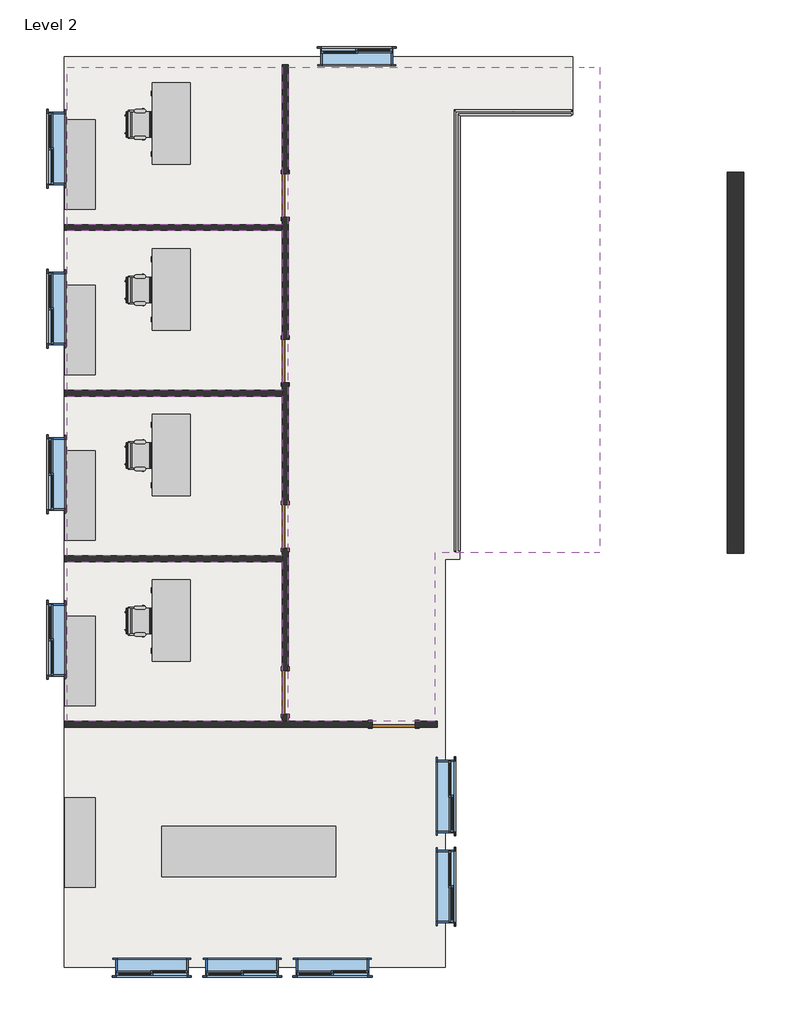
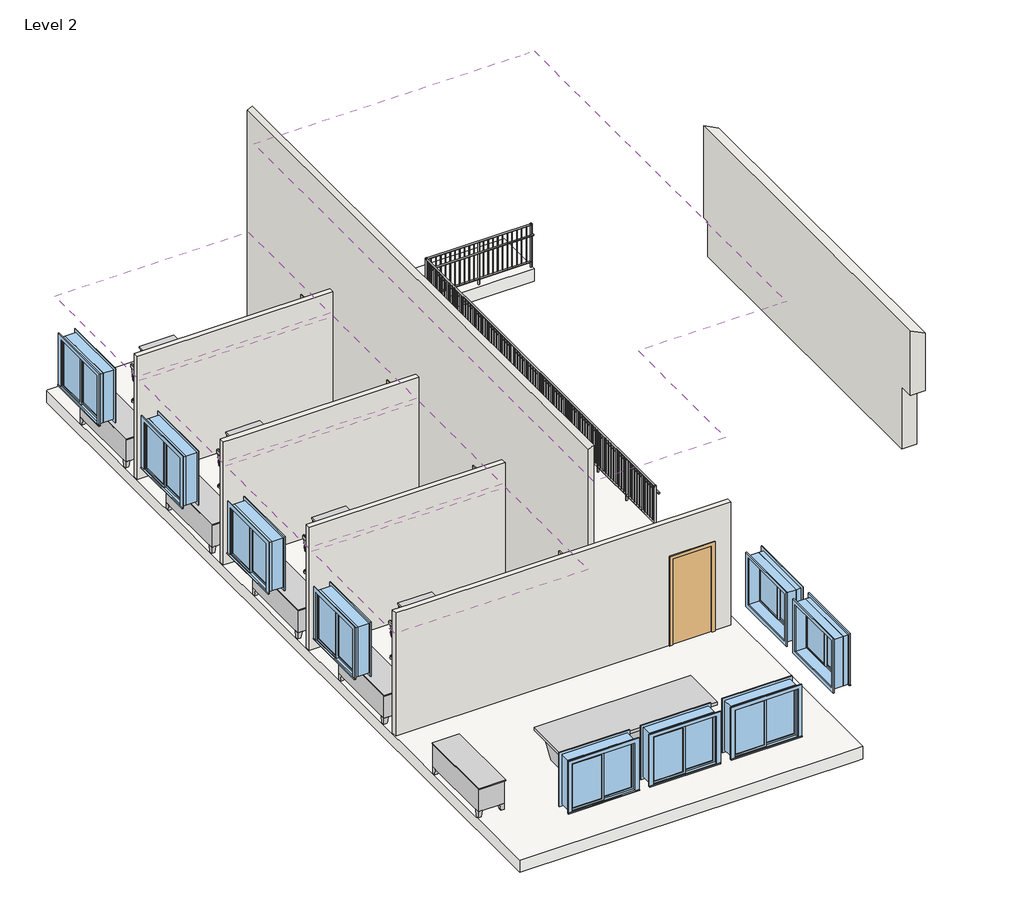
# One storey, incomplete: 14 furniture elements, 10 windows, 6 walls, 5 coverings, 5 doors, 1 railing, 1 slab.
"""IFC4 building model written with IfcOpenShell, lengths in millimetres."""

from ifc_helpers import new_model, si_unit, frame, origin, place, context, project, spatial, polyline, outline, extrude, faceted_brep, transform, mapped, element, save
from components import door_eb9f8b14, chair_task_arms_chair_task_arms_8395c10b, conference_table_complete_42_x_144_00e9c4b6, furniture_5a5a5c8e, furniture_9d33da18, ldc_handrail_pipe_vertical_balusters_79d0837e, ldc_handrail_pipe_vertical_balusters_2524e2be, window_8313e728

model = new_model("IFC4")

# Units and contexts
model_context = context("Model", 3, world=origin())
ifc_project = project(units=[si_unit("LENGTHUNIT", "METRE", prefix="MILLI")], contexts=[model_context])

# Site, building, storey
site = spatial("IfcSite", under=ifc_project)
building = spatial("IfcBuilding", under=site)
storey = spatial("IfcBuildingStorey", under=building, Name="Level 2", Elevation=3060.0)

# Coverings
placement = place(None, origin())
element("IfcCovering", 1, ObjectType="2' x 4' ACT System", at=placement, inside=storey, context=model_context, shape_type="SweptSolid", body=[
    extrude(outline(polyline([(-9011.7016552, 7211.1980424), (-13532.9016552, 7211.1980424), (-13532.9016552, 10517.9605424), (-9011.7016552, 10517.9605424), (-9011.7016552, 7211.1980424)])), frame((0.0, 0.0, 5498.4), z_axis=(0.0, 0.0, 1.0), x_axis=(1.0, 0.0, 0.0)), (0.0, 0.0, 1.0), 57.15),
])
element("IfcCovering", 2, ObjectType="2' x 4' ACT System", at=placement, inside=storey, context=model_context, shape_type="SweptSolid", body=[
    extrude(outline(polyline([(-9011.7016552, 3729.8105424), (-13532.9016552, 3729.8105424), (-13532.9016552, 7087.3730424), (-9011.7016552, 7087.3730424), (-9011.7016552, 3729.8105424)])), frame((0.0, 0.0, 5498.4), z_axis=(0.0, 0.0, 1.0), x_axis=(1.0, 0.0, 0.0)), (0.0, 0.0, 1.0), 57.15),
])
element("IfcCovering", 3, ObjectType="2' x 4' ACT System", at=placement, inside=storey, context=model_context, shape_type="SweptSolid", body=[
    extrude(outline(polyline([(-9011.7016552, 248.4230424), (-13532.9016552, 248.4230424), (-13532.9016552, 3605.9855424), (-9011.7016552, 3605.9855424), (-9011.7016552, 248.4230424)])), frame((0.0, 0.0, 5498.4), z_axis=(0.0, 0.0, 1.0), x_axis=(1.0, 0.0, 0.0)), (0.0, 0.0, 1.0), 57.15),
])
element("IfcCovering", 4, ObjectType="2' x 4' ACT System", at=placement, inside=storey, context=model_context, shape_type="SweptSolid", body=[
    extrude(outline(polyline([(-9011.7016552, -3232.9644576), (-13532.9016552, -3232.9644576), (-13532.9016552, 124.5980424), (-9011.7016552, 124.5980424), (-9011.7016552, -3232.9644576)])), frame((0.0, 0.0, 5498.4), z_axis=(0.0, 0.0, 1.0), x_axis=(1.0, 0.0, 0.0)), (0.0, 0.0, 1.0), 57.15),
])
element("IfcCovering", 5, ObjectType="5/8\" GWB on Mtl. Stud", at=placement, inside=storey, context=model_context, shape_type="Brep", body=[
    faceted_brep([(-2339.5447142, 10517.9605424, 7739.95), (-2772.9516552, 10517.9605424, 7739.95), (-8887.8766552, 10517.9605424, 7739.95), (-8887.8766552, -3232.9644576, 7739.95), (-5804.9516552, -3232.9644576, 7739.95), (-5804.9516552, 307.1605424, 7739.95), (-2772.9516552, 307.1605424, 7739.95), (-2339.5447142, 307.1605424, 7739.95), (-2339.5447142, 10517.9605424, 7632.0), (-2339.5447142, 307.1605424, 7632.0), (-2557.0516552, 307.1605424, 7632.0), (-5804.9516552, 307.1605424, 7632.0), (-5804.9516552, -3232.9644576, 7632.0), (-8887.8766552, -3232.9644576, 7632.0), (-8887.8766552, 10517.9605424, 7632.0), (-2557.0516552, 10517.9605424, 7632.0)], [[[0, 1, 2, 3, 4, 5, 6, 7]], [[8, 9, 10, 11, 12, 13, 14, 15]], [[2, 1, 0, 8, 15, 14]], [[3, 2, 14, 13]], [[4, 3, 13, 12]], [[5, 4, 12, 11]], [[7, 6, 5, 11, 10, 9]], [[0, 7, 9, 8]]]),
])

# Doors
door_shape = door_eb9f8b14(model_context)
element("IfcDoor", 6, ObjectType="Single-Flush : 36\" x 84\"", at=placement, inside=storey, context=model_context, shape_type="MappedRepresentation", body=[
    mapped(door_shape, transform((-6668.5516552, -3294.8769576, 3060.0), x_axis=(1.0, 0.0, 0.0), y_axis=(0.0, 1.0, 0.0), z_axis=(0.0, 0.0, 1.0))),
])
element("IfcDoor", 7, ObjectType="Single-Flush : 36\" x 84\"", at=placement, inside=storey, context=model_context, shape_type="MappedRepresentation", body=[
    mapped(door_shape, transform((-8949.7891552, -2623.3644576, 3060.0), x_axis=(0.0, -1.0, 0.0), y_axis=(1.0, 0.0, 0.0), z_axis=(0.0, 0.0, 1.0))),
])
element("IfcDoor", 8, ObjectType="Single-Flush : 36\" x 84\"", at=placement, inside=storey, context=model_context, shape_type="MappedRepresentation", body=[
    mapped(door_shape, transform((-8949.7891552, 862.7855424, 3060.0), x_axis=(0.0, -1.0, 0.0), y_axis=(1.0, 0.0, 0.0), z_axis=(0.0, 0.0, 1.0))),
])
element("IfcDoor", 9, ObjectType="Single-Flush : 36\" x 84\"", at=placement, inside=storey, context=model_context, shape_type="MappedRepresentation", body=[
    mapped(door_shape, transform((-8949.7891552, 4339.4105424, 3060.0), x_axis=(0.0, -1.0, 0.0), y_axis=(1.0, 0.0, 0.0), z_axis=(0.0, 0.0, 1.0))),
])
element("IfcDoor", 10, ObjectType="Single-Flush : 36\" x 84\"", at=placement, inside=storey, context=model_context, shape_type="MappedRepresentation", body=[
    mapped(door_shape, transform((-8949.7891552, 7820.7980424, 3060.0), x_axis=(0.0, -1.0, 0.0), y_axis=(1.0, 0.0, 0.0), z_axis=(0.0, 0.0, 1.0))),
])

# Furniture
chair_task_arms_chair_task_arms_shape = chair_task_arms_chair_task_arms_8395c10b(model_context)
element("IfcFurniture", 11, ObjectType="Chair-Task Arms : Chair-Task Arms", at=placement, inside=storey, context=model_context, shape_type="MappedRepresentation", body=[
    mapped(chair_task_arms_chair_task_arms_shape, transform((-12048.1356286, -1267.3427772, 3060.0), x_axis=(0.0, 1.0, 0.0), y_axis=(-1.0, 0.0, 0.0), z_axis=(0.0, 0.0, 1.0))),
])
element("IfcFurniture", 12, ObjectType="Chair-Task Arms : Chair-Task Arms", at=placement, inside=storey, context=model_context, shape_type="MappedRepresentation", body=[
    mapped(chair_task_arms_chair_task_arms_shape, transform((-12048.1356286, 2214.0447228, 3060.0), x_axis=(0.0, 1.0, 0.0), y_axis=(-1.0, 0.0, 0.0), z_axis=(0.0, 0.0, 1.0))),
])
element("IfcFurniture", 13, ObjectType="Chair-Task Arms : Chair-Task Arms", at=placement, inside=storey, context=model_context, shape_type="MappedRepresentation", body=[
    mapped(chair_task_arms_chair_task_arms_shape, transform((-12048.1356286, 5695.4322228, 3060.0), x_axis=(0.0, 1.0, 0.0), y_axis=(-1.0, 0.0, 0.0), z_axis=(0.0, 0.0, 1.0))),
])
element("IfcFurniture", 14, ObjectType="Chair-Task Arms : Chair-Task Arms", at=placement, inside=storey, context=model_context, shape_type="MappedRepresentation", body=[
    mapped(chair_task_arms_chair_task_arms_shape, transform((-12048.1356286, 9176.8197228, 3060.0), x_axis=(0.0, 1.0, 0.0), y_axis=(-1.0, 0.0, 0.0), z_axis=(0.0, 0.0, 1.0))),
])
conference_table_complete_42_x_144_shape = conference_table_complete_42_x_144_00e9c4b6(model_context)
element("IfcFurniture", 15, ObjectType="Conference Table-Complete : 42 x 144", at=placement, inside=storey, context=model_context, shape_type="MappedRepresentation", body=[
    mapped(conference_table_complete_42_x_144_shape, transform((-9715.5836955, -5969.8356111, 3060.0), x_axis=(1.0, 0.0, 0.0), y_axis=(0.0, 1.0, 0.0), z_axis=(0.0, 0.0, 1.0))),
])
furniture_shape = furniture_5a5a5c8e(model_context)
element("IfcFurniture", 16, ObjectType="Credenza : 72\" x 24\"", at=placement, inside=storey, context=model_context, shape_type="MappedRepresentation", body=[
    mapped(furniture_shape, transform((-13274.3213273, -1908.6485326, 3060.0), x_axis=(0.0, -1.0, 0.0), y_axis=(1.0, 0.0, 0.0), z_axis=(0.0, 0.0, 1.0))),
])
element("IfcFurniture", 17, ObjectType="Credenza : 72\" x 24\"", at=placement, inside=storey, context=model_context, shape_type="MappedRepresentation", body=[
    mapped(furniture_shape, transform((-13274.3213273, -5718.6485326, 3060.0), x_axis=(0.0, -1.0, 0.0), y_axis=(1.0, 0.0, 0.0), z_axis=(0.0, 0.0, 1.0))),
])
element("IfcFurniture", 18, ObjectType="Credenza : 72\" x 24\"", at=placement, inside=storey, context=model_context, shape_type="MappedRepresentation", body=[
    mapped(furniture_shape, transform((-13274.3213273, 1572.7389674, 3060.0), x_axis=(0.0, -1.0, 0.0), y_axis=(1.0, 0.0, 0.0), z_axis=(0.0, 0.0, 1.0))),
])
element("IfcFurniture", 19, ObjectType="Credenza : 72\" x 24\"", at=placement, inside=storey, context=model_context, shape_type="MappedRepresentation", body=[
    mapped(furniture_shape, transform((-13274.3213273, 5054.1264674, 3060.0), x_axis=(0.0, -1.0, 0.0), y_axis=(1.0, 0.0, 0.0), z_axis=(0.0, 0.0, 1.0))),
])
element("IfcFurniture", 20, ObjectType="Credenza : 72\" x 24\"", at=placement, inside=storey, context=model_context, shape_type="MappedRepresentation", body=[
    mapped(furniture_shape, transform((-13274.3213273, 8535.5139674, 3060.0), x_axis=(0.0, -1.0, 0.0), y_axis=(1.0, 0.0, 0.0), z_axis=(0.0, 0.0, 1.0))),
])
furniture_2_shape = furniture_9d33da18(model_context)
element("IfcFurniture", 21, ObjectType="Desk1 : 66\" x 30\"", at=placement, inside=storey, context=model_context, shape_type="MappedRepresentation", body=[
    mapped(furniture_2_shape, transform((-10962.389727, -275.4519576, 3060.0), x_axis=(0.0, -1.0, 0.0), y_axis=(1.0, 0.0, 0.0), z_axis=(0.0, 0.0, 1.0))),
])
element("IfcFurniture", 22, ObjectType="Desk1 : 66\" x 30\"", at=placement, inside=storey, context=model_context, shape_type="MappedRepresentation", body=[
    mapped(furniture_2_shape, transform((-10962.389727, 3205.9355424, 3060.0), x_axis=(0.0, -1.0, 0.0), y_axis=(1.0, 0.0, 0.0), z_axis=(0.0, 0.0, 1.0))),
])
element("IfcFurniture", 23, ObjectType="Desk1 : 66\" x 30\"", at=placement, inside=storey, context=model_context, shape_type="MappedRepresentation", body=[
    mapped(furniture_2_shape, transform((-10962.389727, 6687.3230424, 3060.0), x_axis=(0.0, -1.0, 0.0), y_axis=(1.0, 0.0, 0.0), z_axis=(0.0, 0.0, 1.0))),
])
element("IfcFurniture", 24, ObjectType="Desk1 : 66\" x 30\"", at=placement, inside=storey, context=model_context, shape_type="MappedRepresentation", body=[
    mapped(furniture_2_shape, transform((-10962.389727, 10168.7105424, 3060.0), x_axis=(0.0, -1.0, 0.0), y_axis=(1.0, 0.0, 0.0), z_axis=(0.0, 0.0, 1.0))),
])

# Railing
ldc_handrail_pipe_vertical_balusters_shape = ldc_handrail_pipe_vertical_balusters_79d0837e(model_context)
ldc_handrail_pipe_vertical_balusters_2_shape = ldc_handrail_pipe_vertical_balusters_2524e2be(model_context)
element("IfcRailing", 25, ObjectType="LDC - Handrail - Pipe - Vertical Balusters", at=placement, inside=storey, context=model_context, shape_type="MappedRepresentation", body=[
    mapped(ldc_handrail_pipe_vertical_balusters_shape, transform((0.0, 0.0, 0.0), x_axis=(1.0, 0.0, 0.0), y_axis=(0.0, 1.0, 0.0), z_axis=(0.0, 0.0, 1.0))),
    mapped(ldc_handrail_pipe_vertical_balusters_2_shape, transform((0.0, 0.0, 0.0), x_axis=(1.0, 0.0, 0.0), y_axis=(0.0, 1.0, 0.0), z_axis=(0.0, 0.0, 1.0))),
])

# Slab
element("IfcSlab", 26, ObjectType="Generic - 12\"", at=placement, inside=storey, context=model_context, shape_type="Brep", body=[
    faceted_brep([(-13596.4016552, 10733.8605424, 2755.2), (-13583.7016552, 10733.8605424, 2755.2), (-5093.7516552, 10733.8605424, 2755.2), (-2909.3516552, 10733.8605424, 2755.2), (-2909.3516552, 9522.777236, 2755.2), (-5284.2516552, 9522.777236, 2755.2), (-5284.2516552, 300.8105424, 2755.2), (-5284.2516552, 175.3980424, 2755.2), (-5401.7266552, 175.3980424, 2755.2), (-5589.0516552, 175.3980424, 2755.2), (-5589.0516552, -8398.6894576, 2755.2), (-5754.1516552, -8398.6894576, 2755.2), (-13596.4016552, -8398.6894576, 2755.2), (-13596.4016552, -8233.5894576, 2755.2), (-13596.4016552, 10733.8605424, 3060.0), (-13596.4016552, -8233.5894576, 3060.0), (-13596.4016552, -8398.6894576, 3060.0), (-5754.1516552, -8398.6894576, 3060.0), (-5589.0516552, -8398.6894576, 3060.0), (-5589.0516552, 175.3980424, 3060.0), (-5401.7266552, 175.3980424, 3060.0), (-5284.2516552, 175.3980424, 3060.0), (-5284.2516552, 9522.777236, 3060.0), (-2909.3516552, 9522.777236, 3060.0), (-2909.3516552, 10733.8605424, 3060.0), (-5093.7516552, 10733.8605424, 3060.0), (-13583.7016552, 10733.8605424, 3060.0)], [[[0, 1, 2, 3, 4, 5, 6, 7, 8, 9, 10, 11, 12, 13]], [[14, 15, 16, 17, 18, 19, 20, 21, 22, 23, 24, 25, 26]], [[3, 2, 1, 0, 14, 26, 25, 24]], [[4, 3, 24, 23]], [[5, 4, 23, 22]], [[7, 6, 5, 22, 21]], [[9, 8, 7, 21, 20, 19]], [[10, 9, 19, 18]], [[12, 11, 10, 18, 17, 16]], [[0, 13, 12, 16, 15, 14]]]),
])

# Walls
element("IfcWall", 27, ObjectType="Exterior - Brick on Mtl. Stud", at=placement, inside=storey, context=model_context, shape_type="Brep", body=[
    faceted_brep([(341.8483448, 8130.3605424, 3060.0), (341.8483448, 2791.5980424, 3060.0), (341.8483448, 300.8105424, 3060.0), (341.8483448, 300.8105424, 3860.0), (341.8483448, 300.8105424, 4587.075), (341.8483448, -51.6144576, 4587.075), (341.8483448, -51.6144576, 6182.55), (341.8483448, 300.8105424, 6182.55), (341.8483448, 8306.5730424, 6182.55), (341.8483448, 8306.5730424, 3918.7375), (341.8483448, 8130.3605424, 3918.7375), (694.2733448, 8130.3605424, 3060.0), (694.2733448, 8130.3605424, 3918.7375), (694.2733448, 8306.5730424, 3918.7375), (694.2733448, 8306.5730424, 6006.3375), (694.2733448, -51.6144576, 6006.3375), (694.2733448, -51.6144576, 4587.075), (694.2733448, 300.8105424, 4587.075), (694.2733448, 300.8105424, 3060.0), (465.6733448, 8130.3605424, 3060.0), (545.0483448, 8130.3605424, 3060.0)], [[[0, 1, 2, 3, 4, 5, 6, 7, 8, 9, 10]], [[11, 12, 13, 14, 15, 16, 17, 18]], [[2, 1, 0, 19, 20, 11, 18]], [[8, 7, 6, 15, 14]], [[9, 8, 14, 13]], [[9, 13, 12, 10]], [[0, 10, 12, 11, 20, 19]], [[16, 5, 4, 17]], [[4, 3, 2, 18, 17]], [[6, 5, 16, 15]]]),
])
element("IfcWall", 28, ObjectType="Interior - 4 7/8\" Partition (1-hr)", at=placement, inside=storey, context=model_context, shape_type="Brep", body=[
    faceted_brep([(-8887.8766552, 4796.6105424, 3060.0), (-8887.8766552, 7363.5980424, 3060.0), (-8887.8766552, 7363.5980424, 5193.6), (-8887.8766552, 8277.9980424, 5193.6), (-8887.8766552, 8277.9980424, 3060.0), (-8887.8766552, 10568.7605424, 3060.0), (-8887.8766552, 10568.7605424, 8530.4625), (-8887.8766552, -3232.9644576, 8530.4625), (-8887.8766552, -3232.9644576, 7739.95), (-8887.8766552, -3232.9644576, 7632.0), (-8887.8766552, -3232.9644576, 3060.0), (-8887.8766552, -3080.5644576, 3060.0), (-8887.8766552, -3080.5644576, 5193.6), (-8887.8766552, -2166.1644576, 5193.6), (-8887.8766552, -2166.1644576, 3060.0), (-8887.8766552, 405.5855424, 3060.0), (-8887.8766552, 405.5855424, 5193.6), (-8887.8766552, 1319.9855424, 5193.6), (-8887.8766552, 1319.9855424, 3060.0), (-8887.8766552, 3882.2105424, 3060.0), (-8887.8766552, 3882.2105424, 5193.6), (-8887.8766552, 4796.6105424, 5193.6), (-9011.7016552, 7363.5980424, 5193.6), (-9011.7016552, 7363.5980424, 3060.0), (-9011.7016552, 7211.1980424, 3060.0), (-9011.7016552, 7087.3730424, 3060.0), (-9011.7016552, 4796.6105424, 3060.0), (-9011.7016552, 4796.6105424, 5193.6), (-9011.7016552, 3882.2105424, 5193.6), (-9011.7016552, 3882.2105424, 3060.0), (-9011.7016552, 3729.8105424, 3060.0), (-9011.7016552, 3605.9855424, 3060.0), (-9011.7016552, 1319.9855424, 3060.0), (-9011.7016552, 1319.9855424, 5193.6), (-9011.7016552, 405.5855424, 5193.6), (-9011.7016552, 405.5855424, 3060.0), (-9011.7016552, 248.4230424, 3060.0), (-9011.7016552, 124.5980424, 3060.0), (-9011.7016552, -2166.1644576, 3060.0), (-9011.7016552, -2166.1644576, 5193.6), (-9011.7016552, -3080.5644576, 5193.6), (-9011.7016552, -3080.5644576, 3060.0), (-9011.7016552, -3232.9644576, 3060.0), (-9011.7016552, -3232.9644576, 8468.55), (-9011.7016552, 10568.7605424, 8468.55), (-9011.7016552, 10568.7605424, 3060.0), (-9011.7016552, 8277.9980424, 3060.0), (-9011.7016552, 8277.9980424, 5193.6)], [[[0, 1, 2, 3, 4, 5, 6, 7, 8, 9, 10, 11, 12, 13, 14, 15, 16, 17, 18, 19, 20, 21]], [[22, 23, 24, 25, 26, 27, 28, 29, 30, 31, 32, 33, 34, 35, 36, 37, 38, 39, 40, 41, 42, 43, 44, 45, 46, 47]], [[42, 41, 11, 10]], [[38, 37, 36, 35, 15, 14]], [[32, 31, 30, 29, 19, 18]], [[46, 45, 5, 4]], [[26, 25, 24, 23, 1, 0]], [[10, 9, 8, 7, 43, 42]], [[12, 11, 41, 40]], [[13, 12, 40, 39]], [[14, 13, 39, 38]], [[16, 15, 35, 34]], [[17, 16, 34, 33]], [[18, 17, 33, 32]], [[20, 19, 29, 28]], [[21, 20, 28, 27]], [[0, 21, 27, 26]], [[2, 1, 23, 22]], [[3, 2, 22, 47]], [[4, 3, 47, 46]], [[7, 6, 44, 43]], [[6, 5, 45, 44]]]),
])
element("IfcWall", 29, ObjectType="Interior - 4 7/8\" Partition (1-hr)", at=placement, inside=storey, context=model_context, shape_type="Brep", body=[
    faceted_brep([(-6211.3516552, -3356.7894576, 5193.6), (-6211.3516552, -3356.7894576, 3060.0), (-5754.1516552, -3356.7894576, 3060.0), (-5754.1516552, -3356.7894576, 6100.0), (-13177.3016552, -3356.7894576, 6100.0), (-13583.7016552, -3356.7894576, 6100.0), (-13583.7016552, -3356.7894576, 3060.0), (-13177.3016552, -3356.7894576, 3060.0), (-7125.7516552, -3356.7894576, 3060.0), (-7125.7516552, -3356.7894576, 5193.6), (-5754.1516552, -3232.9644576, 3060.0), (-6211.3516552, -3232.9644576, 3060.0), (-6211.3516552, -3232.9644576, 5193.6), (-7125.7516552, -3232.9644576, 5193.6), (-7125.7516552, -3232.9644576, 3060.0), (-8887.8766552, -3232.9644576, 3060.0), (-9011.7016552, -3232.9644576, 3060.0), (-13177.3016552, -3232.9644576, 3060.0), (-13583.7016552, -3232.9644576, 3060.0), (-13583.7016552, -3232.9644576, 6100.0), (-13177.3016552, -3232.9644576, 6100.0), (-5754.1516552, -3232.9644576, 6100.0)], [[[0, 1, 2, 3, 4, 5, 6, 7, 8, 9]], [[10, 11, 12, 13, 14, 15, 16, 17, 18, 19, 20, 21]], [[2, 1, 11, 10]], [[8, 7, 6, 18, 17, 16, 15, 14]], [[5, 4, 3, 21, 20, 19]], [[12, 11, 1, 0]], [[13, 12, 0, 9]], [[14, 13, 9, 8]], [[3, 2, 10, 21]], [[6, 5, 19, 18]]]),
])
element("IfcWall", 30, ObjectType="Interior - 4 7/8\" Partition (1-hr)", at=placement, inside=storey, context=model_context, shape_type="SweptSolid", body=[
    extrude(outline(polyline([(-9011.7016552, 124.5980424), (-13583.7016552, 124.5980424), (-13583.7016552, 248.4230424), (-9011.7016552, 248.4230424), (-9011.7016552, 124.5980424)])), frame((0.0, 0.0, 3060.0), z_axis=(0.0, 0.0, 1.0), x_axis=(1.0, 0.0, 0.0)), (0.0, 0.0, 1.0), 3040.0),
])
element("IfcWall", 31, ObjectType="Interior - 4 7/8\" Partition (1-hr)", at=placement, inside=storey, context=model_context, shape_type="Brep", body=[
    faceted_brep([(-13583.7016552, 3605.9855424, 3060.0), (-13177.3016552, 3605.9855424, 3060.0), (-9011.7016552, 3605.9855424, 3060.0), (-9011.7016552, 3605.9855424, 6100.0), (-13177.3016552, 3605.9855424, 6100.0), (-13583.7016552, 3605.9855424, 6100.0), (-13583.7016552, 3729.8105424, 3060.0), (-13583.7016552, 3729.8105424, 6100.0), (-13177.3016552, 3729.8105424, 6100.0), (-9011.7016552, 3729.8105424, 6100.0), (-9011.7016552, 3729.8105424, 3060.0), (-13177.3016552, 3729.8105424, 3060.0)], [[[0, 1, 2, 3, 4, 5]], [[6, 7, 8, 9, 10, 11]], [[2, 1, 0, 6, 11, 10]], [[5, 4, 3, 9, 8, 7]], [[3, 2, 10, 9]], [[0, 5, 7, 6]]]),
])
element("IfcWall", 32, ObjectType="Interior - 4 7/8\" Partition (1-hr)", at=placement, inside=storey, context=model_context, shape_type="SweptSolid", body=[
    extrude(outline(polyline([(-9011.7016552, 7087.3730424), (-13583.7016552, 7087.3730424), (-13583.7016552, 7211.1980424), (-9011.7016552, 7211.1980424), (-9011.7016552, 7087.3730424)])), frame((0.0, 0.0, 3060.0), z_axis=(0.0, 0.0, 1.0), x_axis=(1.0, 0.0, 0.0)), (0.0, 0.0, 1.0), 3040.0),
])

# Windows
window_shape = window_8313e728(model_context)
element("IfcWindow", 33, ObjectType="Slider with Trim : 60\" x 48\"", at=placement, inside=storey, context=model_context, shape_type="MappedRepresentation", body=[
    mapped(window_shape, transform((-13759.9141552, -1519.2582076, 3060.0), x_axis=(0.0, 1.0, 0.0), y_axis=(-1.0, 0.0, 0.0), z_axis=(0.0, 0.0, 1.0))),
])
element("IfcWindow", 34, ObjectType="Slider with Trim : 60\" x 48\"", at=placement, inside=storey, context=model_context, shape_type="MappedRepresentation", body=[
    mapped(window_shape, transform((-13759.9141552, 1962.1292924, 3060.0), x_axis=(0.0, 1.0, 0.0), y_axis=(-1.0, 0.0, 0.0), z_axis=(0.0, 0.0, 1.0))),
])
element("IfcWindow", 35, ObjectType="Slider with Trim : 60\" x 48\"", at=placement, inside=storey, context=model_context, shape_type="MappedRepresentation", body=[
    mapped(window_shape, transform((-13759.9141552, 5443.5167924, 3060.0), x_axis=(0.0, 1.0, 0.0), y_axis=(-1.0, 0.0, 0.0), z_axis=(0.0, 0.0, 1.0))),
])
element("IfcWindow", 36, ObjectType="Slider with Trim : 60\" x 48\"", at=placement, inside=storey, context=model_context, shape_type="MappedRepresentation", body=[
    mapped(window_shape, transform((-13759.9141552, 8805.0480424, 3060.0), x_axis=(0.0, 1.0, 0.0), y_axis=(-1.0, 0.0, 0.0), z_axis=(0.0, 0.0, 1.0))),
])
element("IfcWindow", 37, ObjectType="Slider with Trim : 60\" x 48\"", at=placement, inside=storey, context=model_context, shape_type="MappedRepresentation", body=[
    mapped(window_shape, transform((-11754.9016552, -8409.8019576, 3060.0), x_axis=(-1.0, 0.0, 0.0), y_axis=(0.0, -1.0, 0.0), z_axis=(0.0, 0.0, 1.0))),
])
element("IfcWindow", 38, ObjectType="Slider with Trim : 60\" x 48\"", at=placement, inside=storey, context=model_context, shape_type="MappedRepresentation", body=[
    mapped(window_shape, transform((-9856.2516552, -8409.8019576, 3060.0), x_axis=(-1.0, 0.0, 0.0), y_axis=(0.0, -1.0, 0.0), z_axis=(0.0, 0.0, 1.0))),
])
element("IfcWindow", 39, ObjectType="Slider with Trim : 60\" x 48\"", at=placement, inside=storey, context=model_context, shape_type="MappedRepresentation", body=[
    mapped(window_shape, transform((-7957.6016552, -8409.8019576, 3060.0), x_axis=(-1.0, 0.0, 0.0), y_axis=(0.0, -1.0, 0.0), z_axis=(0.0, 0.0, 1.0))),
])
element("IfcWindow", 40, ObjectType="Slider with Trim : 60\" x 48\"", at=placement, inside=storey, context=model_context, shape_type="MappedRepresentation", body=[
    mapped(window_shape, transform((-5577.9391552, -6709.5894576, 3060.0), x_axis=(0.0, -1.0, 0.0), y_axis=(1.0, 0.0, 0.0), z_axis=(0.0, 0.0, 1.0))),
])
element("IfcWindow", 41, ObjectType="Slider with Trim : 60\" x 48\"", at=placement, inside=storey, context=model_context, shape_type="MappedRepresentation", body=[
    mapped(window_shape, transform((-5577.9391552, -4810.9394576, 3060.0), x_axis=(0.0, -1.0, 0.0), y_axis=(1.0, 0.0, 0.0), z_axis=(0.0, 0.0, 1.0))),
])
element("IfcWindow", 42, ObjectType="Slider with Trim : 60\" x 48\"", at=placement, inside=storey, context=model_context, shape_type="MappedRepresentation", body=[
    mapped(window_shape, transform((-7446.4266552, 10744.9730424, 3060.0), x_axis=(1.0, 0.0, 0.0), y_axis=(0.0, 1.0, 0.0), z_axis=(0.0, 0.0, 1.0))),
])

save(model, "model.ifc")
